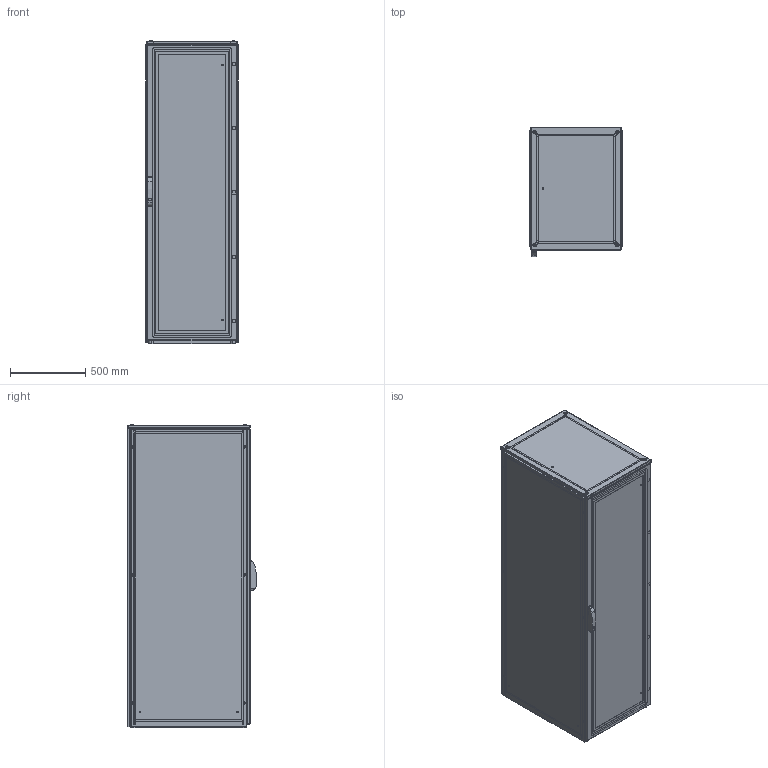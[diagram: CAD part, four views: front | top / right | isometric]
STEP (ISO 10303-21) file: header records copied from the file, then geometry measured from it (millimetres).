
FILE_DESCRIPTION(/* description */ ('STEP AP214'),/* implementation_level */ '2;1');
FILE_NAME(/* name */ 'ENUX062008PR-LOD350',/* time_stamp */ '2025-08-05T14:14:17+02:00',/* author */ ('License CC BY-ND 4.0'),/* organization */ ('CADENAS'),/* preprocessor_version */ 'ST-DEVELOPER v19.3',/* originating_system */ 'PARTsolutions',/* authorisation */ ' ');
FILE_SCHEMA (('AUTOMOTIVE_DESIGN {1 0 10303 214 3 1 1}'));
Length unit declared in the file: millimetre
Products named in the file (10): ENUX062008PR-LOD350; ENUX062008PR-LOD350_CON; ENUX062008PR-LOD350_floor1; ENUX062008PR-LOD350_floor2; Screw M12x30 architecture 350; ENUX062008PR-LOD350_side; ENUX062008PR-LOD350_top; ENUX062008PR-LOD350_back_door; ENUX062008PR-LOD350_door; ENUX062008PR-LOD350_handle
Assembly tree (18 placements, depth 2):
  ENUX062008PR-LOD350
    ENUX062008PR-LOD350_CON
    ENUX062008PR-LOD350_floor1  x2
    ENUX062008PR-LOD350_floor2  x5
    Screw M12x30 architecture 350  x4
    ENUX062008PR-LOD350_side  x2
    ENUX062008PR-LOD350_top
    ENUX062008PR-LOD350_back_door
    ENUX062008PR-LOD350_door
    ENUX062008PR-LOD350_handle
Bounding box: 612 x 857 x 2014.1 mm (x, y, z)
Volume: 22751767.6 mm3; surface area: 19131362.8 mm2
Topology: 18 solids, 18 shells, 1888 faces, 5295 edges, 3452 vertices
Faces by surface type: plane 960, cylinder 763, cone 77, torus 72, sphere 16
Full cylindrical faces by diameter (mm): 4.5 x132, 6 x14, 6.8 x8, 9 x9, 12 x16, 13 x4, 18 x1, 21 x4
Entity records: 47427 total; most frequent: DIRECTION 8213, CARTESIAN_POINT 8213, ORIENTED_EDGE 7704, EDGE_CURVE 3852, AXIS2_PLACEMENT_3D 2934, VERTEX_POINT 2693, LINE 2345, VECTOR 2345
